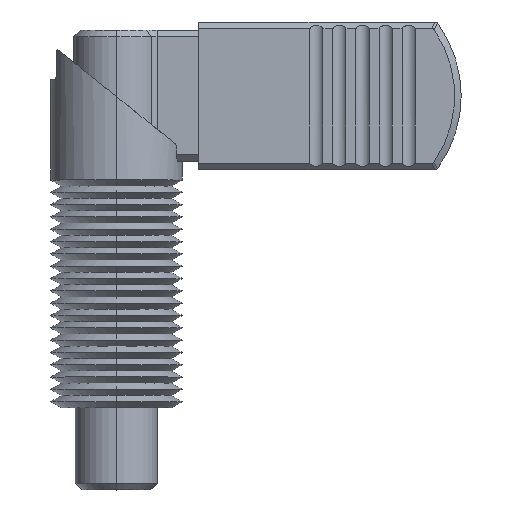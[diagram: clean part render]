
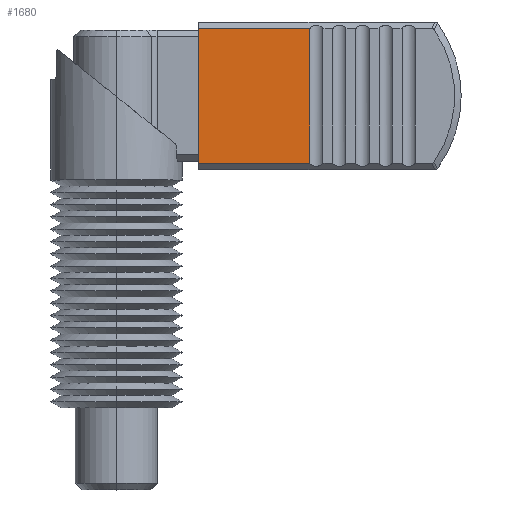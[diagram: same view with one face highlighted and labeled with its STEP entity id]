
A CAD part, top view. The second image highlights one B-rep face of the part: STEP entity #1680.
In plain terms, the highlighted planar face has unit normal (0, 0, 1) as drawn and (-1, 0, 0) by its records, which use the part's own axes.
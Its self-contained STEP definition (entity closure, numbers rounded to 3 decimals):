
#1657 = ORIENTED_EDGE ( 'NONE', *, *, #1897, .F. ) ;
#1668 = EDGE_CURVE ( 'NONE', #1683, #1906, #4673, .T. ) ;
#1679 = ORIENTED_EDGE ( 'NONE', *, *, #1668, .T. ) ;
#1680 = ADVANCED_FACE ( 'NONE', ( #4709 ), #4708, .T. ) ;
#1683 = VERTEX_POINT ( 'NONE', #4697 ) ;
#1802 = EDGE_CURVE ( 'NONE', #1840, #1683, #4979, .T. ) ;
#1829 = ORIENTED_EDGE ( 'NONE', *, *, #1802, .T. ) ;
#1840 = VERTEX_POINT ( 'NONE', #5024 ) ;
#1897 = EDGE_CURVE ( 'NONE', #1903, #1906, #5163, .T. ) ;
#1903 = VERTEX_POINT ( 'NONE', #5147 ) ;
#1906 = VERTEX_POINT ( 'NONE', #5146 ) ;
#1920 = ORIENTED_EDGE ( 'NONE', *, *, #1921, .T. ) ;
#1921 = EDGE_CURVE ( 'NONE', #1903, #1840, #5188, .T. ) ;
#3816 = EDGE_LOOP ( 'NONE', ( #1829, #1679, #1657, #1920 ) ) ;
#4670 = DIRECTION ( 'NONE',  ( 0., 0., -1. ) ) ;
#4671 = VECTOR ( 'NONE', #4670, 1000. ) ;
#4672 = CARTESIAN_POINT ( 'NONE',  ( -3.6, 8.199, 0. ) ) ;
#4673 = LINE ( 'NONE', #4672, #4671 ) ;
#4697 = CARTESIAN_POINT ( 'NONE',  ( -3.6, 8.199, 13.537 ) ) ;
#4702 = DIRECTION ( 'NONE',  ( 0., 0., 1. ) ) ;
#4703 = DIRECTION ( 'NONE',  ( -1., 0., 0. ) ) ;
#4704 = CARTESIAN_POINT ( 'NONE',  ( -3.6, 0., 16.995 ) ) ;
#4706 = AXIS2_PLACEMENT_3D ( 'NONE', #4704, #4703, #4702 ) ;
#4708 = PLANE ( 'NONE',  #4706 ) ;
#4709 = FACE_OUTER_BOUND ( 'NONE', #3816, .T. ) ;
#4976 = DIRECTION ( 'NONE',  ( 0., 1., 0. ) ) ;
#4977 = VECTOR ( 'NONE', #4976, 1000. ) ;
#4978 = CARTESIAN_POINT ( 'NONE',  ( -3.6, -9., 13.537 ) ) ;
#4979 = LINE ( 'NONE', #4978, #4977 ) ;
#5024 = CARTESIAN_POINT ( 'NONE',  ( -3.6, -8.199, 13.537 ) ) ;
#5146 = CARTESIAN_POINT ( 'NONE',  ( -3.6, 8.199, 0. ) ) ;
#5147 = CARTESIAN_POINT ( 'NONE',  ( -3.6, -8.199, 0. ) ) ;
#5160 = DIRECTION ( 'NONE',  ( 0., 1., 0. ) ) ;
#5161 = VECTOR ( 'NONE', #5160, 1000. ) ;
#5162 = CARTESIAN_POINT ( 'NONE',  ( -3.6, -9., 0. ) ) ;
#5163 = LINE ( 'NONE', #5162, #5161 ) ;
#5185 = DIRECTION ( 'NONE',  ( 0., 0., 1. ) ) ;
#5186 = VECTOR ( 'NONE', #5185, 1000. ) ;
#5187 = CARTESIAN_POINT ( 'NONE',  ( -3.6, -8.199, 29.001 ) ) ;
#5188 = LINE ( 'NONE', #5187, #5186 ) ;
